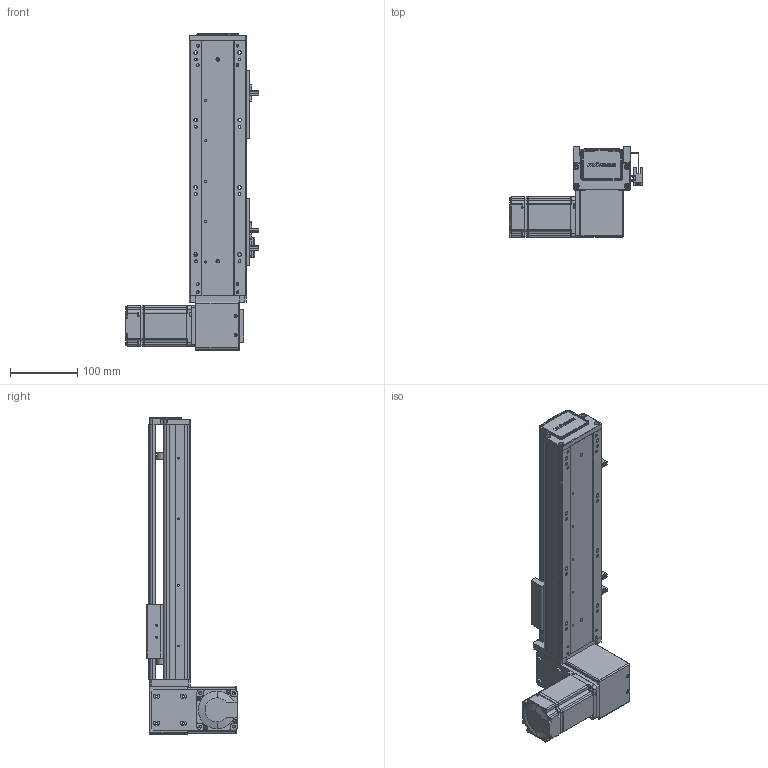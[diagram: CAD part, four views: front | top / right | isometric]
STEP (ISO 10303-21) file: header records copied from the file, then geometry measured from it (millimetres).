
FILE_DESCRIPTION (( 'STEP AP203' ), '1' );
FILE_NAME ('RY80-T-300-DL.SLDASM_200.step', '2021-03-01T01:37:30', ( '盈信电脑' ), ( '东莞市道滘镇水果街19号' ), 'SwSTEP 2.0', 'SolidWorks 2012', '' );
FILE_SCHEMA (( 'CONFIG_CONTROL_DESIGN' ));
Products named in the file (19): RY80-T-300-DL.SLDASM_200; RY100-T粣創揤踡裔; RY80-T-M4蹟翐3; RY80-T肮祭謫狟殏俋欶; RY80-T-上下折同步轮盖板; RY80-T萇儂假蚾啣; RY80-T翋肮祭謫裔啣; 滅袉蝶18-10; 1; RY80俋离覜茼え; RY80-T-翋肮祭謫釱; RY80-T肮祭湍揤輸1; RY80-T肮祭湍揤輸2; RY80-T綴裔啣; 覜茼ん672; 672嫖萇羲壽假蚾釱; RY80-T-300-DL倰第奻裔啣_200; RY80-T-300-DL倰第菁釱_200; RY80-T肮祭謫臏賑輸
Assembly tree (24 placements, depth 2):
  RY80-T-300-DL.SLDASM_200
    RY80-T-300-DL倰第菁釱_200
    RY80-T肮祭謫臏賑輸
    RY80-T-300-DL倰第奻裔啣_200
    RY80-T綴裔啣
    672嫖萇羲壽假蚾釱  x2
    覜茼ん672  x3
    RY80俋离覜茼え
    RY80-T-翋肮祭謫釱
    RY80-T肮祭湍揤輸1
    RY80-T肮祭湍揤輸2
    RY80-T萇儂假蚾啣
    RY80-T翋肮祭謫裔啣  x2
    滅袉蝶18-10  x2
    1
    RY80-T肮祭謫狟殏俋欶
    RY80-T-M4蹟翐3  x2
    RY80-T-上下折同步轮盖板
    RY100-T粣創揤踡裔
Bounding box: 198.7 x 134.5 x 470 mm (x, y, z)
Volume: 1151160.8 mm3; surface area: 457049.5 mm2
Topology: 24 solids, 24 shells, 2361 faces, 6465 edges, 4195 vertices
Faces by surface type: plane 1319, cylinder 841, cone 145, bspline 56
Entity records: 72561 total; most frequent: CARTESIAN_POINT 16716, ORIENTED_EDGE 11374, DIRECTION 10830, EDGE_CURVE 5687, VERTEX_POINT 3736, VECTOR 3642, LINE 3642, AXIS2_PLACEMENT_3D 3594
